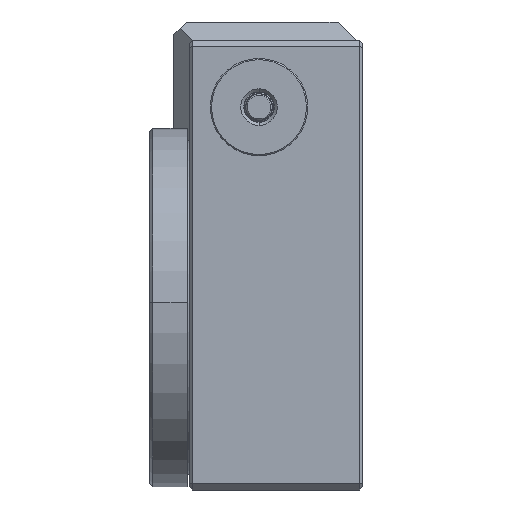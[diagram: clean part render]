
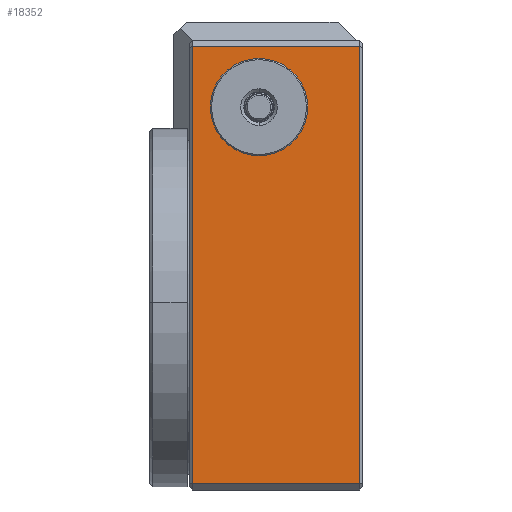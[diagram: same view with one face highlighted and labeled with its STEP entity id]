
A CAD part, left-side view. The second image highlights one B-rep face of the part: STEP entity #18352.
In plain terms, the highlighted planar face has unit normal (-1, 0, 0).
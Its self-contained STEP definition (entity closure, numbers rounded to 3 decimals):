
#318 = FACE_OUTER_BOUND ( 'NONE', #28393, .T. ) ;
#324 = ORIENTED_EDGE ( 'NONE', *, *, #1774, .T. ) ;
#1003 = EDGE_CURVE ( 'NONE', #12619, #19990, #1874, .T. ) ;
#1258 = EDGE_CURVE ( 'NONE', #19990, #33810, #23991, .T. ) ;
#1774 = EDGE_CURVE ( 'NONE', #33810, #10223, #26058, .T. ) ;
#1874 = LINE ( 'NONE', #19022, #28908 ) ;
#1996 = AXIS2_PLACEMENT_3D ( 'NONE', #15068, #33324, #17689 ) ;
#2758 = CIRCLE ( 'NONE', #21740, 5.966 ) ;
#3709 = ORIENTED_EDGE ( 'NONE', *, *, #29528, .T. ) ;
#4866 = CARTESIAN_POINT ( 'NONE',  ( -30., 0.5, 36. ) ) ;
#4957 = DIRECTION ( 'NONE',  ( 0., 0., 1. ) ) ;
#6251 = CARTESIAN_POINT ( 'NONE',  ( -30., 28., -36. ) ) ;
#6468 = CARTESIAN_POINT ( 'NONE',  ( -30., 28., 37. ) ) ;
#8959 = CIRCLE ( 'NONE', #1996, 5.966 ) ;
#9017 = DIRECTION ( 'NONE',  ( 0., 1., 0. ) ) ;
#10164 = DIRECTION ( 'NONE',  ( 0., -1., 0. ) ) ;
#10223 = VERTEX_POINT ( 'NONE', #31221 ) ;
#10290 = ORIENTED_EDGE ( 'NONE', *, *, #1258, .T. ) ;
#10809 = ORIENTED_EDGE ( 'NONE', *, *, #1003, .T. ) ;
#10920 = CARTESIAN_POINT ( 'NONE',  ( -30., 28.5, 37. ) ) ;
#11604 = CARTESIAN_POINT ( 'NONE',  ( -30., 28.5, 36. ) ) ;
#12104 = VECTOR ( 'NONE', #9017, 1000. ) ;
#12455 = LINE ( 'NONE', #6468, #32539 ) ;
#12619 = VERTEX_POINT ( 'NONE', #6251 ) ;
#12784 = CARTESIAN_POINT ( 'NONE',  ( -30., 17., 26. ) ) ;
#12981 = ORIENTED_EDGE ( 'NONE', *, *, #32500, .T. ) ;
#13563 = DIRECTION ( 'NONE',  ( 0., 0., -1. ) ) ;
#14349 = DIRECTION ( 'NONE',  ( 0., 0., -1. ) ) ;
#15068 = CARTESIAN_POINT ( 'NONE',  ( -30., 17., 26. ) ) ;
#15392 = VECTOR ( 'NONE', #4957, 1000. ) ;
#15484 = DIRECTION ( 'NONE',  ( 0., 0., -1. ) ) ;
#15608 = CARTESIAN_POINT ( 'NONE',  ( -30., 0.5, -36. ) ) ;
#15695 = VERTEX_POINT ( 'NONE', #32069 ) ;
#16071 = CARTESIAN_POINT ( 'NONE',  ( -30., 17., 31.966 ) ) ;
#16764 = EDGE_CURVE ( 'NONE', #32909, #15695, #8959, .T. ) ;
#17689 = DIRECTION ( 'NONE',  ( 0., 0., -1. ) ) ;
#18352 = ADVANCED_FACE ( 'NONE', ( #19550, #318 ), #24004, .F. ) ;
#19022 = CARTESIAN_POINT ( 'NONE',  ( -30., 28.5, -36. ) ) ;
#19550 = FACE_BOUND ( 'NONE', #26113, .T. ) ;
#19565 = ORIENTED_EDGE ( 'NONE', *, *, #16764, .T. ) ;
#19782 = AXIS2_PLACEMENT_3D ( 'NONE', #10920, #29242, #13563 ) ;
#19990 = VERTEX_POINT ( 'NONE', #15608 ) ;
#21740 = AXIS2_PLACEMENT_3D ( 'NONE', #12784, #31126, #15484 ) ;
#22994 = CARTESIAN_POINT ( 'NONE',  ( -30., 0.5, 36. ) ) ;
#23991 = LINE ( 'NONE', #4866, #15392 ) ;
#24004 = PLANE ( 'NONE',  #19782 ) ;
#26058 = LINE ( 'NONE', #11604, #12104 ) ;
#26113 = EDGE_LOOP ( 'NONE', ( #19565, #3709 ) ) ;
#28393 = EDGE_LOOP ( 'NONE', ( #324, #12981, #10809, #10290 ) ) ;
#28908 = VECTOR ( 'NONE', #10164, 1000. ) ;
#29242 = DIRECTION ( 'NONE',  ( 1., 0., 0. ) ) ;
#29528 = EDGE_CURVE ( 'NONE', #15695, #32909, #2758, .T. ) ;
#31126 = DIRECTION ( 'NONE',  ( 1., 0., 0. ) ) ;
#31221 = CARTESIAN_POINT ( 'NONE',  ( -30., 28., 36. ) ) ;
#32069 = CARTESIAN_POINT ( 'NONE',  ( -30., 17., 20.034 ) ) ;
#32500 = EDGE_CURVE ( 'NONE', #10223, #12619, #12455, .T. ) ;
#32539 = VECTOR ( 'NONE', #14349, 1000. ) ;
#32909 = VERTEX_POINT ( 'NONE', #16071 ) ;
#33324 = DIRECTION ( 'NONE',  ( 1., 0., 0. ) ) ;
#33810 = VERTEX_POINT ( 'NONE', #22994 ) ;
